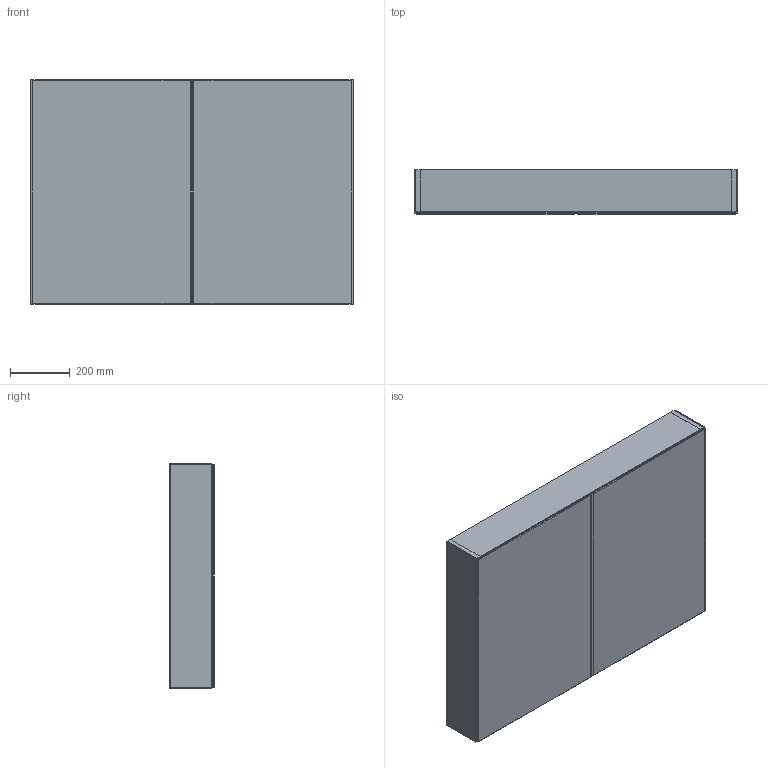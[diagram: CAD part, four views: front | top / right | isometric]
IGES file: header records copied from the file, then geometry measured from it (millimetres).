
Start section: Data from Parasolid IGES Translator 19.0.9, Copyright(c) 2006 Siemens PL M Software. All Rights Reserved.
Global section: file name: noorth-mirror-H 75 D 14,7 W 108_9063.igs; native system: By Siemens PLM Incorporated; preprocessor: XPlus GENERIC/IGES 19.0.9; author: Noname; organization: Noname; date: 20200519.095714; units: metre
Bounding box: 1079.82 x 147 x 750 mm (x, y, z)
Volume: 17910996 mm3; surface area: 5311925.4 mm2
Topology: 12 solids, 12 shells, 196 faces, 372 edges, 200 vertices
Faces by surface type: plane 196
